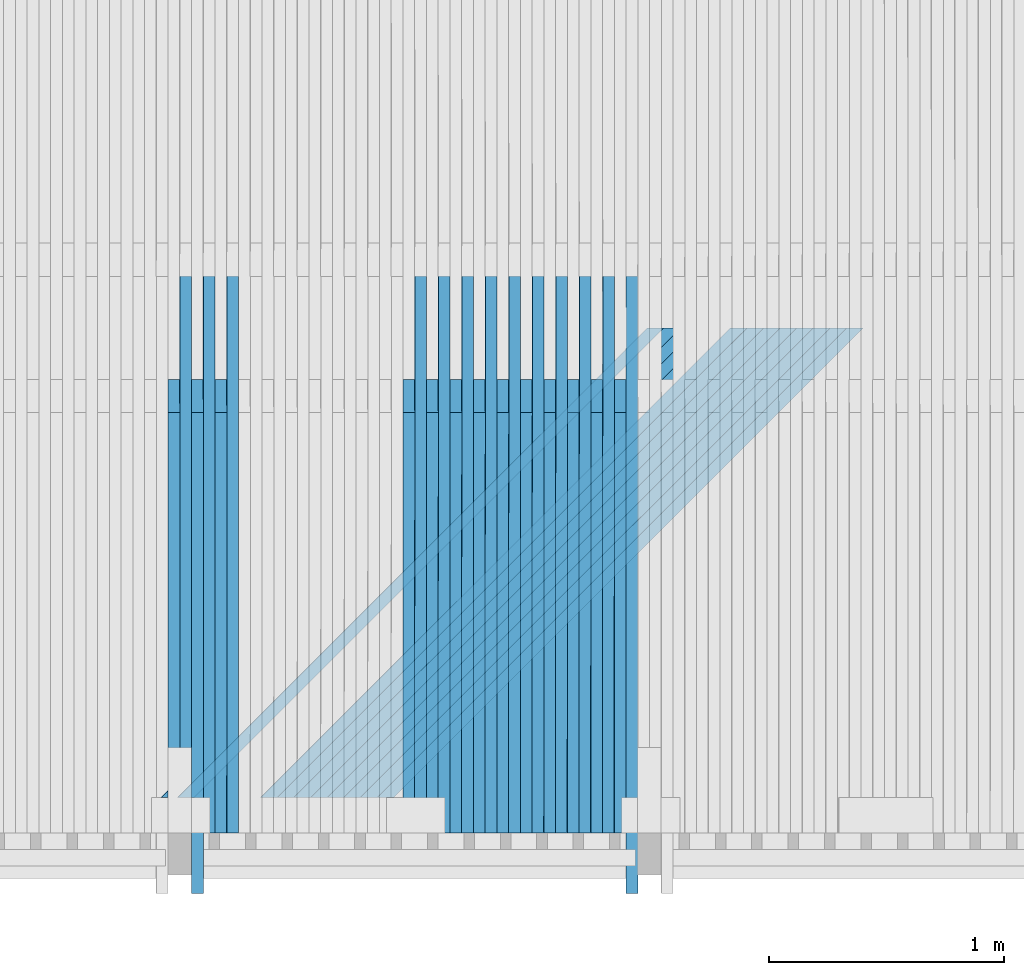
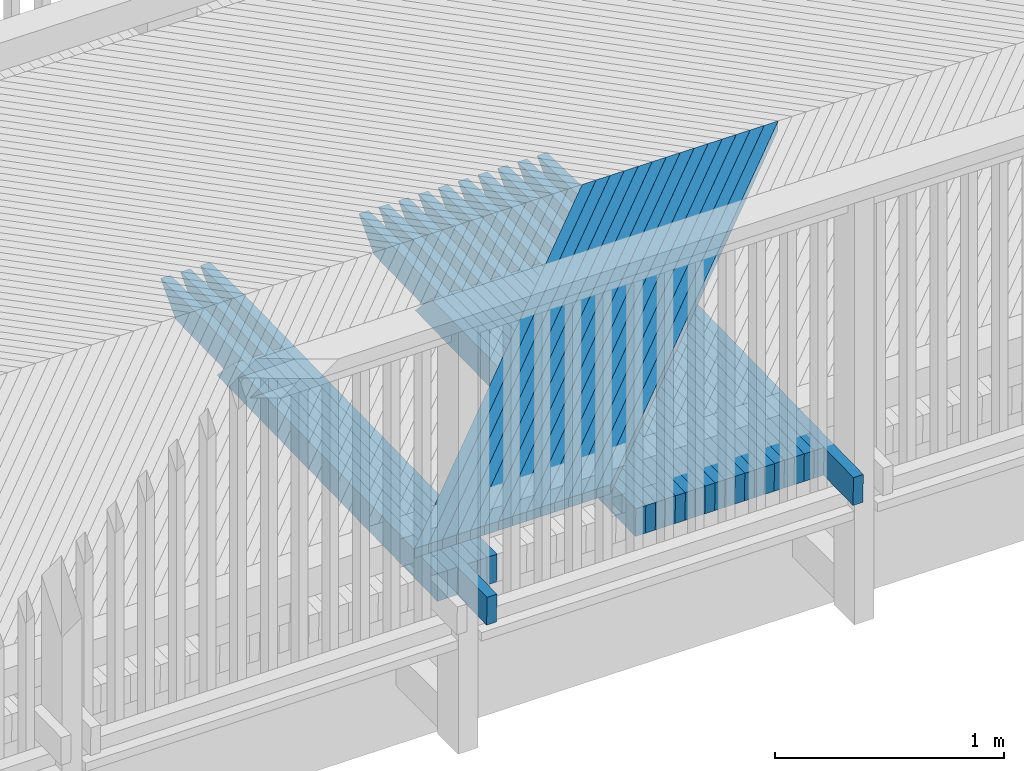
# One storey, part 31 of 52: 40 beams.
"""IFC2X3 building model written with IfcOpenShell, lengths in millimetres."""

from ifc_helpers import new_model, si_unit, frame, origin_with_axes, place, context, subcontext, project, spatial, faceted_brep, material, type_object, element, save


model = new_model("IFC2X3")

# Units and contexts
model_context = context("Model", 3, precision=1e-05, world=origin_with_axes())
body_context = subcontext(model_context, "Body", "Model", "MODEL_VIEW")
ifc_project = project(units=[si_unit("LENGTHUNIT", "METRE", prefix="MILLI"), si_unit("AREAUNIT", "SQUARE_METRE"), si_unit("VOLUMEUNIT", "CUBIC_METRE"), si_unit("MASSUNIT", "GRAM", prefix="KILO"), si_unit("TIMEUNIT", "SECOND"), si_unit("PLANEANGLEUNIT", "RADIAN"), si_unit("SOLIDANGLEUNIT", "STERADIAN"), si_unit("THERMODYNAMICTEMPERATUREUNIT", "DEGREE_CELSIUS"), si_unit("LUMINOUSINTENSITYUNIT", "LUMEN")], contexts=[model_context])

# Site, building, storey
site_placement = place(None, origin_with_axes())
site = spatial("IfcSite", under=ifc_project, at=site_placement, Name="Undefined", CompositionType="ELEMENT")
building_placement = place(site_placement, origin_with_axes())
building = spatial("IfcBuilding", under=site, at=building_placement, Name="Undefined", CompositionType="ELEMENT")
storey_placement = place(building_placement, origin_with_axes())
storey = spatial("IfcBuildingStorey", under=building, at=storey_placement, Name="Undefined", CompositionType="ELEMENT", Elevation=0.0)

# Beams
ifc_material = material(Name="TIMBER/Timber_Undefined")
beam_type_1 = type_object("IfcBeamType", Name="50*50", PredefinedType="NOTDEFINED")
for number, where, z_axis, x_axis, name in (
    (1, (12874.2769605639, 2364.50010032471, 3216.39230435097), (0.706987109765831, -0.706981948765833, -0.0185943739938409), (-0.707198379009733, -0.70694885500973, -0.0096834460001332), "BEAM"),
    (2, (12803.5550110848, 2364.50010032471, 3216.96068661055), (0.706989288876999, -0.706981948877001, -0.0185113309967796), (-0.707197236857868, -0.706948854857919, -0.00976651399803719), "BEAM"),
    (3, (12732.832995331, 2364.50010032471, 3217.52076181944), (0.706991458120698, -0.706981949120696, -0.0184282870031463), (-0.707196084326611, -0.706948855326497, -0.00984958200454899), "BEAM"),
    (4, (12662.1109142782, 2364.50010032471, 3218.07252996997), (0.706993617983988, -0.706981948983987, -0.0183452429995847), (-0.707194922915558, -0.706948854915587, -0.00993264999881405), "BEAM"),
    (5, (12591.3887689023, 2364.50010032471, 3218.61599105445), (0.706995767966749, -0.706981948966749, -0.0182621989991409), (-0.707193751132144, -0.706948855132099, -0.0100157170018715), "BEAM"),
    (6, (12520.666560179, 2364.50010032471, 3219.15114506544), (0.706997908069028, -0.706981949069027, -0.0181791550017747), (-0.707192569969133, -0.706948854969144, -0.0100987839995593), "BEAM"),
    (7, (12449.944289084, 2364.50010032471, 3219.67799199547), (0.707000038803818, -0.706981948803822, -0.0180961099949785), (-0.707191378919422, -0.706948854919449, -0.0101818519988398), "BEAM"),
    (8, (12379.2219565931, 2364.50010032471, 3220.19653183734), (0.707002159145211, -0.706981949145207, -0.0180130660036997), (-0.707190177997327, -0.706948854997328, -0.0102649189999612), "BEAM"),
    (9, (12308.499563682, 2364.50010032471, 3220.70676458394), (0.70700427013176, -0.706981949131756, -0.0179300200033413), (-0.707188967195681, -0.706948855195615, -0.0103479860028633), "BEAM"),
    (10, (12237.7771113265, 2364.50010032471, 3221.20869022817), (0.707006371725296, -0.706981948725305, -0.0178469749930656), (-0.707187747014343, -0.706948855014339, -0.0104310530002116), "BEAM"),
    (11, (12167.0546005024, 2364.50010032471, 3221.70230876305), (0.707008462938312, -0.706981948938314, -0.0177639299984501), (-0.70718651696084, -0.706948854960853, -0.0105141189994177), "BEAM"),
    (12, (12096.3320321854, 2364.50010032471, 3222.18762018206), (0.707010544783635, -0.706981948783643, -0.017680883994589), (-0.707185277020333, -0.706948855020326, -0.0105971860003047), "BEAM"),
    (13, (12025.6094073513, 2364.50010032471, 3222.66462447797), (0.707012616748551, -0.706981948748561, -0.0175978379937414), (-0.707184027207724, -0.706948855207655, -0.0106802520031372), "BEAM"),
    (14, (11954.8867269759, 2364.50010032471, 3223.13332164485), (0.707014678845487, -0.706981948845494, -0.0175147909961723), (-0.707182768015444, -0.706948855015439, -0.0107633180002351), "BEAM"),
):
    element("IfcBeam", number, at=place(storey_placement, frame(where, z_axis=z_axis, x_axis=x_axis)), inside=storey, type_object=beam_type_1, material=ifc_material, Name=name, ObjectType="50*50", context=body_context, shape_type="Brep", body=[
        faceted_brep([(24.894245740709, 25.0, -25.0), (-25.0086637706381, 24.9999999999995, 24.9999999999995), (2804.3406783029, 25.0000000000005, 25.0000000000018), (2854.34301907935, 25.0, -24.9999999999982), (-26.4222658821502, -25.0, 24.9999999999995), (2802.92643296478, -25.0, 25.0000000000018), (23.4806436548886, -25.0, -25.0), (2852.92877373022, -25.0, -24.9999999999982)], [[[0, 1, 2, 3]], [[1, 4, 5, 2]], [[4, 6, 7, 5]], [[6, 0, 3, 7]], [[5, 7, 3, 2]], [[6, 4, 1, 0]]]),
    ])
beam_type_2 = type_object("IfcBeamType", Name="150*50", PredefinedType="NOTDEFINED")
for number, where, z_axis, x_axis, name in (
    (15, (11875.3256007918, 216.50460761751, 3080.67367306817), (0.0063570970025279, -0.0199960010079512, 0.999779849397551), (0.000127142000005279, 0.99980006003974, 0.0199955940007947), "BEAM"),
    (16, (11775.3075869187, 216.50460761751, 3081.30926986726), (0.00619097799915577, -0.0199960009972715, 0.999780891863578), (0.000123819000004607, 0.999800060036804, 0.0199956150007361), "BEAM"),
):
    element("IfcBeam", number, at=place(storey_placement, frame(where, z_axis=z_axis, x_axis=x_axis)), inside=storey, type_object=beam_type_2, material=ifc_material, Name=name, ObjectType="150*50", context=body_context, shape_type="Brep", body=[
        faceted_brep([(-1.67788130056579e-07, -24.9999999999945, -74.9999999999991), (1.67786311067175e-07, -24.9999999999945, 75.0000000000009), (1.67786311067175e-07, 25.0000000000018, 75.0), (-1.67787220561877e-07, 25.0000000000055, -75.0), (1789.96936433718, -25.0000000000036, 74.9999999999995), (1789.96936408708, 24.9999999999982, 75.0000000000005), (1928.42646328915, 24.9999999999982, -74.9999999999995), (1928.42646353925, -25.0, -75.0)], [[[0, 1, 2, 3]], [[2, 1, 4, 5]], [[3, 2, 5, 6]], [[0, 3, 6, 7]], [[1, 0, 7, 4]], [[6, 5, 4, 7]]]),
    ])
beam_1_placement = place(storey_placement, frame((11825.3266087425, 216.504607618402, 3080.99122584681), z_axis=(0.0063570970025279, -0.0199960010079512, 0.999779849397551), x_axis=(0.000127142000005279, 0.99980006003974, 0.0199955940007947)))
element("IfcBeam", 17, at=beam_1_placement, inside=storey, type_object=beam_type_2, material=ifc_material, Name="BEAM", ObjectType="150*50", context=body_context, shape_type="Brep", body=[
    faceted_brep([(-1.67788130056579e-07, -24.9999999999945, -74.9999999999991), (1.67786311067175e-07, -24.9999999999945, 75.0000000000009), (1.67786311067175e-07, 25.0000000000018, 75.0), (-1.67787220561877e-07, 25.0000000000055, -75.0), (2375.00494422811, 25.0000000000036, -74.9999999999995), (2375.0049444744, -24.9999999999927, -74.9999999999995), (2510.5924871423, -24.9999999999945, 60.5875430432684), (2150.42514405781, -24.9999999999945, 75.0000000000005), (2150.42515052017, 25.0000000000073, 75.0), (2510.59248715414, 25.0000000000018, 60.5875433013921)], [[[0, 1, 2, 3]], [[0, 3, 4, 5]], [[1, 0, 5, 6, 7]], [[2, 1, 7, 8]], [[4, 3, 2, 8, 9]], [[5, 4, 9, 6]], [[6, 9, 8, 7]]]),
])
beam_2_placement = place(storey_placement, frame((11675.2894688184, 216.50460761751, 3081.92824813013), z_axis=(0.00602485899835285, -0.0199960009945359, 0.9997819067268), x_axis=(0.000120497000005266, 0.9998000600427, 0.019995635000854)))
element("IfcBeam", 18, at=beam_2_placement, inside=storey, type_object=beam_type_2, material=ifc_material, Name="BEAM", ObjectType="150*50", context=body_context, shape_type="Brep", body=[
    faceted_brep([(-1.67788130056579e-07, -24.9999999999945, -74.9999999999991), (1.67786311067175e-07, -24.9999999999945, 75.0000000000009), (1.67786311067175e-07, 25.0000000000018, 75.0), (-1.67787220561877e-07, 25.0000000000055, -75.0), (1789.96936433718, -25.0000000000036, 74.9999999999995), (1789.96936408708, 24.9999999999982, 75.0000000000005), (1928.42646328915, 24.9999999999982, -74.9999999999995), (1928.42646353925, -25.0, -75.0)], [[[0, 1, 2, 3]], [[2, 1, 4, 5]], [[3, 2, 5, 6]], [[0, 3, 6, 7]], [[1, 0, 7, 4]], [[6, 5, 4, 7]]]),
])
beam_3_placement = place(storey_placement, frame((11725.3085427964, 216.504607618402, 3081.61851504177), z_axis=(0.00619097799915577, -0.0199960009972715, 0.999780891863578), x_axis=(0.000123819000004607, 0.999800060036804, 0.0199956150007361)))
element("IfcBeam", 19, at=beam_3_placement, inside=storey, type_object=beam_type_2, material=ifc_material, Name="BEAM", ObjectType="150*50", context=body_context, shape_type="Brep", body=[
    faceted_brep([(-1.67788130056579e-07, -24.9999999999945, -74.9999999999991), (1.67786311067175e-07, -24.9999999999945, 75.0000000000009), (1.67786311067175e-07, 25.0000000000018, 75.0), (-1.67787220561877e-07, 25.0000000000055, -75.0), (2375.00494422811, 25.0000000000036, -74.9999999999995), (2375.0049444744, -24.9999999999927, -74.9999999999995), (2510.5924871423, -24.9999999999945, 60.5875430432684), (2150.42514405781, -24.9999999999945, 75.0000000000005), (2150.42515052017, 25.0000000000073, 75.0), (2510.59248715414, 25.0000000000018, 60.5875433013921)], [[[0, 1, 2, 3]], [[0, 3, 4, 5]], [[1, 0, 5, 6, 7]], [[2, 1, 7, 8]], [[4, 3, 2, 8, 9]], [[5, 4, 9, 6]], [[6, 9, 8, 7]]]),
])
beam_4_placement = place(storey_placement, frame((11575.2712492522, 216.50460761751, 3082.53060783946), z_axis=(0.00585873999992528, -0.0199960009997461, 0.999782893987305), x_axis=(0.000117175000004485, 0.999800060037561, 0.0199956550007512)))
element("IfcBeam", 20, at=beam_4_placement, inside=storey, type_object=beam_type_2, material=ifc_material, Name="BEAM", ObjectType="150*50", context=body_context, shape_type="Brep", body=[
    faceted_brep([(-1.67788130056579e-07, -24.9999999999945, -74.9999999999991), (1.67786311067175e-07, -24.9999999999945, 75.0000000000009), (1.67786311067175e-07, 25.0000000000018, 75.0), (-1.67787220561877e-07, 25.0000000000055, -75.0), (1789.96936433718, -25.0000000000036, 74.9999999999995), (1789.96936408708, 24.9999999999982, 75.0000000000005), (1928.42646328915, 24.9999999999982, -74.9999999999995), (1928.42646353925, -25.0, -75.0)], [[[0, 1, 2, 3]], [[2, 1, 4, 5]], [[3, 2, 5, 6]], [[0, 3, 6, 7]], [[1, 0, 7, 4]], [[6, 5, 4, 7]]]),
])
beam_5_placement = place(storey_placement, frame((11625.2903740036, 216.504607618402, 3082.22918569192), z_axis=(0.00602485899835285, -0.0199960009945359, 0.9997819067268), x_axis=(0.000120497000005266, 0.9998000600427, 0.019995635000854)))
element("IfcBeam", 21, at=beam_5_placement, inside=storey, type_object=beam_type_2, material=ifc_material, Name="BEAM", ObjectType="150*50", context=body_context, shape_type="Brep", body=[
    faceted_brep([(-1.67788130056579e-07, -24.9999999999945, -74.9999999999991), (1.67786311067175e-07, -24.9999999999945, 75.0000000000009), (1.67786311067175e-07, 25.0000000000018, 75.0), (-1.67787220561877e-07, 25.0000000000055, -75.0), (2375.00494422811, 25.0000000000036, -74.9999999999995), (2375.0049444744, -24.9999999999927, -74.9999999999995), (2510.5924871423, -24.9999999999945, 60.5875430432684), (2150.42514405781, -24.9999999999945, 75.0000000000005), (2150.42515052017, 25.0000000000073, 75.0), (2510.59248715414, 25.0000000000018, 60.5875433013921)], [[[0, 1, 2, 3]], [[0, 3, 4, 5]], [[1, 0, 5, 6, 7]], [[2, 1, 7, 8]], [[4, 3, 2, 8, 9]], [[5, 4, 9, 6]], [[6, 9, 8, 7]]]),
])
beam_6_placement = place(storey_placement, frame((11475.2529309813, 216.50460761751, 3083.11634897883), z_axis=(0.00569262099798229, -0.0199960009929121, 0.999783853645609), x_axis=(0.000113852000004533, 0.999800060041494, 0.01999567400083)))
element("IfcBeam", 22, at=beam_6_placement, inside=storey, type_object=beam_type_2, material=ifc_material, Name="BEAM", ObjectType="150*50", context=body_context, shape_type="Brep", body=[
    faceted_brep([(-1.67788130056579e-07, -24.9999999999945, -74.9999999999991), (1.67786311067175e-07, -24.9999999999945, 75.0000000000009), (1.67786311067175e-07, 25.0000000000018, 75.0), (-1.67787220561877e-07, 25.0000000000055, -75.0), (1789.96936433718, -25.0000000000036, 74.9999999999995), (1789.96936408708, 24.9999999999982, 75.0000000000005), (1928.42646328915, 24.9999999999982, -74.9999999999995), (1928.42646353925, -25.0, -75.0)], [[[0, 1, 2, 3]], [[2, 1, 4, 5]], [[3, 2, 5, 6]], [[0, 3, 6, 7]], [[1, 0, 7, 4]], [[6, 5, 4, 7]]]),
])
beam_7_placement = place(storey_placement, frame((11525.2721051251, 216.504607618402, 3082.82323778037), z_axis=(0.00585873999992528, -0.0199960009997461, 0.999782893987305), x_axis=(0.000117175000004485, 0.999800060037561, 0.0199956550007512)))
element("IfcBeam", 23, at=beam_7_placement, inside=storey, type_object=beam_type_2, material=ifc_material, Name="BEAM", ObjectType="150*50", context=body_context, shape_type="Brep", body=[
    faceted_brep([(-1.67788130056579e-07, -24.9999999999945, -74.9999999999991), (1.67786311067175e-07, -24.9999999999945, 75.0000000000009), (1.67786311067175e-07, 25.0000000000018, 75.0), (-1.67787220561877e-07, 25.0000000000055, -75.0), (2375.00494422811, 25.0000000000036, -74.9999999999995), (2375.0049444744, -24.9999999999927, -74.9999999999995), (2510.5924871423, -24.9999999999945, 60.5875430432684), (2150.42514405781, -24.9999999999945, 75.0000000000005), (2150.42515052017, 25.0000000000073, 75.0), (2510.59248715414, 25.0000000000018, 60.5875433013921)], [[[0, 1, 2, 3]], [[0, 3, 4, 5]], [[1, 0, 5, 6, 7]], [[2, 1, 7, 8]], [[4, 3, 2, 8, 9]], [[5, 4, 9, 6]], [[6, 9, 8, 7]]]),
])
beam_8_placement = place(storey_placement, frame((11375.234516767, 216.50460761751, 3083.68547153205), z_axis=(0.00552650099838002, -0.0199960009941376, 0.999784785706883), x_axis=(0.000110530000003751, 0.999800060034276, 0.0199956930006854)))
element("IfcBeam", 24, at=beam_8_placement, inside=storey, type_object=beam_type_2, material=ifc_material, Name="BEAM", ObjectType="150*50", context=body_context, shape_type="Brep", body=[
    faceted_brep([(-1.67788130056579e-07, -24.9999999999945, -74.9999999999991), (1.67786311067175e-07, -24.9999999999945, 75.0000000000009), (1.67786311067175e-07, 25.0000000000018, 75.0), (-1.67787220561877e-07, 25.0000000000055, -75.0), (1789.96936433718, -25.0000000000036, 74.9999999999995), (1789.96936408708, 24.9999999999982, 75.0000000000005), (1928.42646328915, 24.9999999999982, -74.9999999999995), (1928.42646353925, -25.0, -75.0)], [[[0, 1, 2, 3]], [[2, 1, 4, 5]], [[3, 2, 5, 6]], [[0, 3, 6, 7]], [[1, 0, 7, 4]], [[6, 5, 4, 7]]]),
])
beam_9_placement = place(storey_placement, frame((11425.2537389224, 216.504607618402, 3083.4006712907), z_axis=(0.00569262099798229, -0.0199960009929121, 0.999783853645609), x_axis=(0.000113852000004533, 0.999800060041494, 0.01999567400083)))
element("IfcBeam", 25, at=beam_9_placement, inside=storey, type_object=beam_type_2, material=ifc_material, Name="BEAM", ObjectType="150*50", context=body_context, shape_type="Brep", body=[
    faceted_brep([(-1.67788130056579e-07, -24.9999999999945, -74.9999999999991), (1.67786311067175e-07, -24.9999999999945, 75.0000000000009), (1.67786311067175e-07, 25.0000000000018, 75.0), (-1.67787220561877e-07, 25.0000000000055, -75.0), (2375.00494422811, 25.0000000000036, -74.9999999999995), (2375.0049444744, -24.9999999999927, -74.9999999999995), (2510.5924871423, -24.9999999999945, 60.5875430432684), (2150.42514405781, -24.9999999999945, 75.0000000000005), (2150.42515052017, 25.0000000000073, 75.0), (2510.59248715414, 25.0000000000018, 60.5875433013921)], [[[0, 1, 2, 3]], [[0, 3, 4, 5]], [[1, 0, 5, 6, 7]], [[2, 1, 7, 8]], [[4, 3, 2, 8, 9]], [[5, 4, 9, 6]], [[6, 9, 8, 7]]]),
])
beam_10_placement = place(storey_placement, frame((11275.2160093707, 216.50460761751, 3084.23797548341), z_axis=(0.00536038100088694, -0.019996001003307, 0.999785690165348), x_axis=(0.000107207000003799, 0.999800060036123, 0.0199957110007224)))
element("IfcBeam", 26, at=beam_10_placement, inside=storey, type_object=beam_type_2, material=ifc_material, Name="BEAM", ObjectType="150*50", context=body_context, shape_type="Brep", body=[
    faceted_brep([(-1.67788130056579e-07, -24.9999999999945, -74.9999999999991), (1.67786311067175e-07, -24.9999999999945, 75.0000000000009), (1.67786311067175e-07, 25.0000000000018, 75.0), (-1.67787220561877e-07, 25.0000000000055, -75.0), (1789.96936433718, -25.0000000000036, 74.9999999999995), (1789.96936408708, 24.9999999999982, 75.0000000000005), (1928.42646328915, 24.9999999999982, -74.9999999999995), (1928.42646353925, -25.0, -75.0)], [[[0, 1, 2, 3]], [[2, 1, 4, 5]], [[3, 2, 5, 6]], [[0, 3, 6, 7]], [[1, 0, 7, 4]], [[6, 5, 4, 7]]]),
])
beam_11_placement = place(storey_placement, frame((11325.2352781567, 216.504607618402, 3083.96148620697), z_axis=(0.00552650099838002, -0.0199960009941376, 0.999784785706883), x_axis=(0.000110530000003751, 0.999800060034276, 0.0199956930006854)))
element("IfcBeam", 27, at=beam_11_placement, inside=storey, type_object=beam_type_2, material=ifc_material, Name="BEAM", ObjectType="150*50", context=body_context, shape_type="Brep", body=[
    faceted_brep([(-1.67788130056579e-07, -24.9999999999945, -74.9999999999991), (1.67786311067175e-07, -24.9999999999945, 75.0000000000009), (1.67786311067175e-07, 25.0000000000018, 75.0), (-1.67787220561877e-07, 25.0000000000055, -75.0), (2375.00494422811, 25.0000000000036, -74.9999999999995), (2375.0049444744, -24.9999999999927, -74.9999999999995), (2510.5924871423, -24.9999999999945, 60.5875430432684), (2150.42514405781, -24.9999999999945, 75.0000000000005), (2150.42515052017, 25.0000000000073, 75.0), (2510.59248715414, 25.0000000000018, 60.5875433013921)], [[[0, 1, 2, 3]], [[0, 3, 4, 5]], [[1, 0, 5, 6, 7]], [[2, 1, 7, 8]], [[4, 3, 2, 8, 9]], [[5, 4, 9, 6]], [[6, 9, 8, 7]]]),
])
beam_12_placement = place(storey_placement, frame((11175.1974115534, 216.50460761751, 3084.77386081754), z_axis=(0.00519426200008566, -0.0199960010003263, 0.999786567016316), x_axis=(0.000103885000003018, 0.999800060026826, 0.0199957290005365)))
element("IfcBeam", 28, at=beam_12_placement, inside=storey, type_object=beam_type_2, material=ifc_material, Name="BEAM", ObjectType="150*50", context=body_context, shape_type="Brep", body=[
    faceted_brep([(-1.67788130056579e-07, -24.9999999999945, -74.9999999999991), (1.67786311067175e-07, -24.9999999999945, 75.0000000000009), (1.67786311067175e-07, 25.0000000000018, 75.0), (-1.67787220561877e-07, 25.0000000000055, -75.0), (1789.96936433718, -25.0000000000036, 74.9999999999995), (1789.96936408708, 24.9999999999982, 75.0000000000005), (1928.42646328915, 24.9999999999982, -74.9999999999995), (1928.42646353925, -25.0, -75.0)], [[[0, 1, 2, 3]], [[2, 1, 4, 5]], [[3, 2, 5, 6]], [[0, 3, 6, 7]], [[1, 0, 7, 4]], [[6, 5, 4, 7]]]),
])
beam_13_placement = place(storey_placement, frame((11225.2167255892, 216.504607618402, 3084.50568251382), z_axis=(0.00536038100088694, -0.019996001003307, 0.999785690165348), x_axis=(0.000107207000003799, 0.999800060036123, 0.0199957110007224)))
element("IfcBeam", 29, at=beam_13_placement, inside=storey, type_object=beam_type_2, material=ifc_material, Name="BEAM", ObjectType="150*50", context=body_context, shape_type="Brep", body=[
    faceted_brep([(-1.67788130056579e-07, -24.9999999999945, -74.9999999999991), (1.67786311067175e-07, -24.9999999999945, 75.0000000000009), (1.67786311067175e-07, 25.0000000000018, 75.0), (-1.67787220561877e-07, 25.0000000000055, -75.0), (2375.00494422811, 25.0000000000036, -74.9999999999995), (2375.0049444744, -24.9999999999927, -74.9999999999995), (2510.5924871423, -24.9999999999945, 60.5875430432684), (2150.42514405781, -24.9999999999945, 75.0000000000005), (2150.42515052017, 25.0000000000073, 75.0), (2510.59248715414, 25.0000000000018, 60.5875433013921)], [[[0, 1, 2, 3]], [[0, 3, 4, 5]], [[1, 0, 5, 6, 7]], [[2, 1, 7, 8]], [[4, 3, 2, 8, 9]], [[5, 4, 9, 6]], [[6, 9, 8, 7]]]),
])
beam_14_placement = place(storey_placement, frame((11075.1787260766, 216.50460761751, 3085.29312751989), z_axis=(0.005028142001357, -0.0199960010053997, 0.999787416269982), x_axis=(0.000100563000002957, 0.999800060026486, 0.0199957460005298)))
element("IfcBeam", 30, at=beam_14_placement, inside=storey, type_object=beam_type_2, material=ifc_material, Name="BEAM", ObjectType="150*50", context=body_context, shape_type="Brep", body=[
    faceted_brep([(-1.67788130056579e-07, -24.9999999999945, -74.9999999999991), (1.67786311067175e-07, -24.9999999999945, 75.0000000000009), (1.67786311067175e-07, 25.0000000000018, 75.0), (-1.67787220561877e-07, 25.0000000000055, -75.0), (1789.96936433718, -25.0000000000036, 74.9999999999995), (1789.96936408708, 24.9999999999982, 75.0000000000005), (1928.42646328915, 24.9999999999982, -74.9999999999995), (1928.42646353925, -25.0, -75.0)], [[[0, 1, 2, 3]], [[2, 1, 4, 5]], [[3, 2, 5, 6]], [[0, 3, 6, 7]], [[1, 0, 7, 4]], [[6, 5, 4, 7]]]),
])
beam_15_placement = place(storey_placement, frame((11125.1980839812, 216.504607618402, 3085.03326019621), z_axis=(0.00519426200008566, -0.0199960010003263, 0.999786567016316), x_axis=(0.000103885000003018, 0.999800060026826, 0.0199957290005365)))
element("IfcBeam", 31, at=beam_15_placement, inside=storey, type_object=beam_type_2, material=ifc_material, Name="BEAM", ObjectType="150*50", context=body_context, shape_type="Brep", body=[
    faceted_brep([(-1.67788130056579e-07, -24.9999999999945, -74.9999999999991), (1.67786311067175e-07, -24.9999999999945, 75.0000000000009), (1.67786311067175e-07, 25.0000000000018, 75.0), (-1.67787220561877e-07, 25.0000000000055, -75.0), (2375.00494422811, 25.0000000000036, -74.9999999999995), (2375.0049444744, -24.9999999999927, -74.9999999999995), (2510.5924871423, -24.9999999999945, 60.5875430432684), (2150.42514405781, -24.9999999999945, 75.0000000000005), (2150.42515052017, 25.0000000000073, 75.0), (2510.59248715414, 25.0000000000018, 60.5875433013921)], [[[0, 1, 2, 3]], [[0, 3, 4, 5]], [[1, 0, 5, 6, 7]], [[2, 1, 7, 8]], [[4, 3, 2, 8, 9]], [[5, 4, 9, 6]], [[6, 9, 8, 7]]]),
])
beam_16_placement = place(storey_placement, frame((10975.1599557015, 216.50460761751, 3085.79577557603), z_axis=(0.00486202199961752, -0.0199960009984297, 0.999788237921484), x_axis=(9.72400000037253e-05, 0.999800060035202, 0.019995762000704)))
element("IfcBeam", 32, at=beam_16_placement, inside=storey, type_object=beam_type_2, material=ifc_material, Name="BEAM", ObjectType="150*50", context=body_context, shape_type="Brep", body=[
    faceted_brep([(-1.67788130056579e-07, -24.9999999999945, -74.9999999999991), (1.67786311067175e-07, -24.9999999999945, 75.0000000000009), (1.67786311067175e-07, 25.0000000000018, 75.0), (-1.67787220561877e-07, 25.0000000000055, -75.0), (1789.96936433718, -25.0000000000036, 74.9999999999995), (1789.96936408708, 24.9999999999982, 75.0000000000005), (1928.42646328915, 24.9999999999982, -74.9999999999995), (1928.42646353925, -25.0, -75.0)], [[[0, 1, 2, 3]], [[2, 1, 4, 5]], [[3, 2, 5, 6]], [[0, 3, 6, 7]], [[1, 0, 7, 4]], [[6, 5, 4, 7]]]),
])
beam_17_placement = place(storey_placement, frame((11025.179356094, 216.504607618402, 3085.5442192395), z_axis=(0.005028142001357, -0.0199960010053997, 0.999787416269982), x_axis=(0.000100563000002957, 0.999800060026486, 0.0199957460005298)))
element("IfcBeam", 33, at=beam_17_placement, inside=storey, type_object=beam_type_2, material=ifc_material, Name="BEAM", ObjectType="150*50", context=body_context, shape_type="Brep", body=[
    faceted_brep([(-1.67788130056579e-07, -24.9999999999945, -74.9999999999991), (1.67786311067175e-07, -24.9999999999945, 75.0000000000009), (1.67786311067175e-07, 25.0000000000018, 75.0), (-1.67787220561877e-07, 25.0000000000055, -75.0), (2375.00494422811, 25.0000000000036, -74.9999999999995), (2375.0049444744, -24.9999999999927, -74.9999999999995), (2510.5924871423, -24.9999999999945, 60.5875430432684), (2150.42514405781, -24.9999999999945, 75.0000000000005), (2150.42515052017, 25.0000000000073, 75.0), (2510.59248715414, 25.0000000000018, 60.5875433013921)], [[[0, 1, 2, 3]], [[0, 3, 4, 5]], [[1, 0, 5, 6, 7]], [[2, 1, 7, 8]], [[4, 3, 2, 8, 9]], [[5, 4, 9, 6]], [[6, 9, 8, 7]]]),
])
beam_18_placement = place(storey_placement, frame((10175.0070677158, 216.50460761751, 3089.21868718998), z_axis=(0.00353305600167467, -0.0199960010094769, 0.999793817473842), x_axis=(7.06610000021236e-05, 0.999800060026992, 0.0199958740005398)))
element("IfcBeam", 34, at=beam_18_placement, inside=storey, type_object=beam_type_2, material=ifc_material, Name="BEAM", ObjectType="150*50", context=body_context, shape_type="Brep", body=[
    faceted_brep([(-1.67788130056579e-07, -24.9999999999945, -74.9999999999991), (1.67786311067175e-07, -24.9999999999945, 75.0000000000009), (1.67786311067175e-07, 25.0000000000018, 75.0), (-1.67787220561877e-07, 25.0000000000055, -75.0), (1789.96936433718, -25.0000000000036, 74.9999999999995), (1789.96936408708, 24.9999999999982, 75.0000000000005), (1928.42646328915, 24.9999999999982, -74.9999999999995), (1928.42646353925, -25.0, -75.0)], [[[0, 1, 2, 3]], [[2, 1, 4, 5]], [[3, 2, 5, 6]], [[0, 3, 6, 7]], [[1, 0, 7, 4]], [[6, 5, 4, 7]]]),
])
for number, where, z_axis, x_axis, name in (
    (35, (10225.0267582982, 216.504607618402, 3089.03361898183), (0.00369917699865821, -0.0199960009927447, 0.999793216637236), (7.39830000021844e-05, 0.999800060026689, 0.0199958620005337), "BEAM"),
    (36, (10125.0073781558, 216.504607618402, 3089.39500969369), (0.00353305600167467, -0.0199960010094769, 0.999793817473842), (7.06610000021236e-05, 0.999800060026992, 0.0199958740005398), "BEAM"),
):
    element("IfcBeam", number, at=place(storey_placement, frame(where, z_axis=z_axis, x_axis=x_axis)), inside=storey, type_object=beam_type_2, material=ifc_material, Name=name, ObjectType="150*50", context=body_context, shape_type="Brep", body=[
        faceted_brep([(-1.67788130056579e-07, -24.9999999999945, -74.9999999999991), (1.67786311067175e-07, -24.9999999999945, 75.0000000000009), (1.67786311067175e-07, 25.0000000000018, 75.0), (-1.67787220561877e-07, 25.0000000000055, -75.0), (2375.00494422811, 25.0000000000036, -74.9999999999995), (2375.0049444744, -24.9999999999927, -74.9999999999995), (2510.5924871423, -24.9999999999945, 60.5875430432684), (2150.42514405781, -24.9999999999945, 75.0000000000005), (2150.42515052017, 25.0000000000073, 75.0), (2510.59248715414, 25.0000000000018, 60.5875433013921)], [[[0, 1, 2, 3]], [[0, 3, 4, 5]], [[1, 0, 5, 6, 7]], [[2, 1, 7, 8]], [[4, 3, 2, 8, 9]], [[5, 4, 9, 6]], [[6, 9, 8, 7]]]),
    ])
beam_19_placement = place(storey_placement, frame((9974.96819002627, 216.50460761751, 3089.90822776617), z_axis=(0.00320081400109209, -0.0199960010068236, 0.999794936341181), x_axis=(6.40160000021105e-05, 0.999800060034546, 0.0199958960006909)))
element("IfcBeam", 37, at=beam_19_placement, inside=storey, type_object=beam_type_2, material=ifc_material, Name="BEAM", ObjectType="150*50", context=body_context, shape_type="Brep", body=[
    faceted_brep([(-1.67788130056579e-07, -24.9999999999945, -74.9999999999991), (1.67786311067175e-07, -24.9999999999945, 75.0000000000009), (1.67786311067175e-07, 25.0000000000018, 75.0), (-1.67787220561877e-07, 25.0000000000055, -75.0), (1789.96936433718, -25.0000000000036, 74.9999999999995), (1789.96936408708, 24.9999999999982, 75.0000000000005), (1928.42646328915, 24.9999999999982, -74.9999999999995), (1928.42646353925, -25.0, -75.0)], [[[0, 1, 2, 3]], [[2, 1, 4, 5]], [[3, 2, 5, 6]], [[0, 3, 6, 7]], [[1, 0, 7, 4]], [[6, 5, 4, 7]]]),
])
beam_20_placement = place(storey_placement, frame((10024.987939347, 216.504607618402, 3089.73978164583), z_axis=(0.00336693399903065, -0.019996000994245, 0.999794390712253), x_axis=(6.73390000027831e-05, 0.999800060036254, 0.0199958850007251)))
element("IfcBeam", 38, at=beam_20_placement, inside=storey, type_object=beam_type_2, material=ifc_material, Name="BEAM", ObjectType="150*50", context=body_context, shape_type="Brep", body=[
    faceted_brep([(-1.67788130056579e-07, -24.9999999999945, -74.9999999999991), (1.67786311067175e-07, -24.9999999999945, 75.0000000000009), (1.67786311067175e-07, 25.0000000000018, 75.0), (-1.67787220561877e-07, 25.0000000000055, -75.0), (2375.00494422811, 25.0000000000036, -74.9999999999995), (2375.0049444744, -24.9999999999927, -74.9999999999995), (2510.5924871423, -24.9999999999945, 60.5875430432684), (2150.42514405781, -24.9999999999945, 75.0000000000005), (2150.42515052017, 25.0000000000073, 75.0), (2510.59248715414, 25.0000000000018, 60.5875433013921)], [[[0, 1, 2, 3]], [[0, 3, 4, 5]], [[1, 0, 5, 6, 7]], [[2, 1, 7, 8]], [[4, 3, 2, 8, 9]], [[5, 4, 9, 6]], [[6, 9, 8, 7]]]),
])
beam_21_placement = place(storey_placement, frame((11924.8805372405, -41.4438078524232, 3075.18894989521), z_axis=(0.0065221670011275, -0.0199960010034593, 0.999778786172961), x_axis=(0.000130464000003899, 0.999800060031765, 0.0199955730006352)))
element("IfcBeam", 39, at=beam_21_placement, inside=storey, type_object=beam_type_2, material=ifc_material, Name="BEAM", ObjectType="150*50", context=body_context, shape_type="Brep", body=[
    faceted_brep([(-1.67788130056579e-07, -24.9999999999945, -74.9999999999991), (1.67786311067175e-07, -24.9999999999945, 75.0000000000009), (1.67786311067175e-07, 25.0000000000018, 75.0), (-1.67787220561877e-07, 25.0000000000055, -75.0), (2633.00494750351, 25.0, -74.9999999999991), (2633.00494763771, -25.0, -74.9999999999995), (2768.59248713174, -25.0, 60.5875397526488), (2408.42500011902, -25.0, 75.0), (2408.42500056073, 25.0, 75.0), (2768.59248710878, 24.9999999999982, 60.5875398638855)], [[[0, 1, 2, 3]], [[0, 3, 4, 5]], [[1, 0, 5, 6, 7]], [[2, 1, 7, 8]], [[4, 3, 2, 8, 9]], [[5, 4, 9, 6]], [[8, 7, 6, 9]]]),
])
beam_22_placement = place(storey_placement, frame((10075.045826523, -41.4438078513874, 3084.41227820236), z_axis=(0.00336693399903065, -0.019996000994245, 0.999794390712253), x_axis=(6.73390000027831e-05, 0.999800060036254, 0.0199958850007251)))
element("IfcBeam", 40, at=beam_22_placement, inside=storey, type_object=beam_type_2, material=ifc_material, Name="BEAM", ObjectType="150*50", context=body_context, shape_type="Brep", body=[
    faceted_brep([(-1.67788130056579e-07, -24.9999999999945, -74.9999999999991), (1.67786311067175e-07, -24.9999999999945, 75.0000000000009), (1.67786311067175e-07, 25.0000000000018, 75.0), (-1.67787220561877e-07, 25.0000000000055, -75.0), (2047.96935255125, -25.0, 75.0), (2047.9693678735, 25.0, 75.0), (2186.42646676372, 24.9999999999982, -75.0), (2186.42645144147, -25.0, -75.0)], [[[0, 1, 2, 3]], [[2, 1, 4, 5]], [[3, 2, 5, 6]], [[0, 3, 6, 7]], [[1, 0, 7, 4]], [[6, 5, 4, 7]]]),
])

save(model, "model.ifc")
